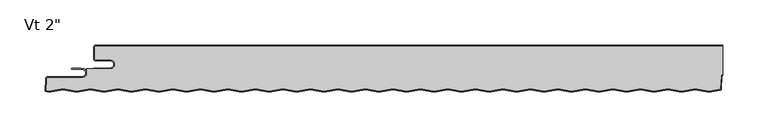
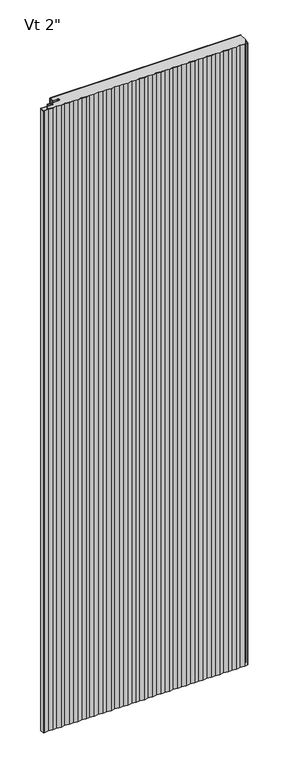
"""IFC4 building model written with IfcOpenShell, lengths in millimetres: plate geometry."""

from ifc_helpers import new_model, si_unit, point, frame_2d, origin, origin_with_axes, place, context, project, spatial, polyline, circle_curve, trimmed, segment, composite_curve, outline, extrude, source, transform, mapped, element, save


def plate_70c22ccc(model_context):
    return source(origin(), model_context, "Body", "SweptSolid", [
        extrude(outline(composite_curve([segment(polyline([(-345.8249998, -1.0), (348.9999998, -1.0), (348.9999998, -32.391556)]), True, "CONTINUOUS"), segment(trimmed(circle_curve(frame_2d((349.5261348, -34.925)), 2.5875), [point((348.9999998, -32.391556))], [point((346.9421809, -34.7895807))], True, "CARTESIAN"), True, "CONTINUOUS"), segment(polyline([(346.9421809, -34.7895807), (346.2043986, -48.8673048), (333.4662502, -50.9054086), (318.4288176, -48.4994194), (303.1888176, -50.9378194), (287.9488176, -48.4994194), (272.7088176, -50.9378194), (257.4688176, -48.4994194), (242.2288176, -50.9378194), (226.9888176, -48.4994194), (211.7488176, -50.9378194), (196.5088176, -48.4994194), (181.2688176, -50.9378194), (166.0288176, -48.4994194), (150.7888176, -50.9378194), (135.5488176, -48.4994194), (120.3088176, -50.9378194), (105.0688176, -48.4994194), (89.8288176, -50.9378194), (74.5888176, -48.4994194), (59.3488176, -50.9378194), (44.1088176, -48.4994194), (28.8688176, -50.9378194), (13.6288176, -48.4994194), (-1.6111824, -50.9378194), (-16.8511824, -48.4994194), (-32.0911824, -50.9378194), (-47.3311824, -48.4994194), (-62.5711824, -50.9378194), (-77.8111824, -48.4994194), (-93.0511824, -50.9378194), (-108.2911824, -48.4994194), (-123.5311824, -50.9378194), (-138.7711824, -48.4994194), (-154.0111824, -50.9378194), (-169.2511824, -48.4994194), (-184.4911824, -50.9378194), (-199.7311824, -48.4994194), (-214.9711824, -50.9378194), (-230.2111824, -48.4994194), (-245.4511824, -50.9378194), (-260.6911824, -48.4994194), (-275.9311824, -50.9378194), (-291.1711824, -48.4994194), (-306.4111824, -50.9378194), (-321.6511824, -48.4994194), (-336.8911824, -50.9378194), (-352.1311824, -48.4994194), (-367.3711824, -50.9378194), (-382.6111824, -48.4994194), (-397.8511824, -50.9378194), (-401.1593604, -50.4085109), (-400.4689115, -37.233961)]), True, "CONTINUOUS"), segment(trimmed(circle_curve(frame_2d((-399.0895545, -37.30625)), 1.38125), [point((-400.4689115, -37.233961))], [point((-399.0895545, -35.925))], False, "CARTESIAN"), True, "CONTINUOUS"), segment(polyline([(-399.0895545, -35.925), (-360.9062498, -35.925)]), True, "CONTINUOUS"), segment(trimmed(circle_curve(frame_2d((-360.9062498, -30.95625)), 4.96875), [point((-360.9062498, -35.925))], [point((-355.9374998, -30.95625))], True, "CARTESIAN"), True, "CONTINUOUS"), segment(polyline([(-355.9374998, -30.95625), (-355.9374998, -26.4), (-329.9499998, -26.4)]), True, "CONTINUOUS"), segment(trimmed(circle_curve(frame_2d((-329.9499998, -21.43125)), 4.96875), [point((-329.9499998, -26.4))], [point((-329.9499998, -16.4625))], True, "CARTESIAN"), True, "CONTINUOUS"), segment(polyline([(-329.9499998, -16.4625), (-345.8249998, -16.4625)]), True, "CONTINUOUS"), segment(trimmed(circle_curve(frame_2d((-345.8249998, -15.08125)), 1.38125), [point((-345.8249998, -16.4625))], [point((-347.2062498, -15.08125))], False, "CARTESIAN"), True, "CONTINUOUS"), segment(polyline([(-347.2062498, -15.08125), (-347.2062498, -2.38125)]), True, "CONTINUOUS"), segment(trimmed(circle_curve(frame_2d((-345.8249998, -2.38125)), 1.38125), [point((-347.2062498, -2.38125))], [point((-345.8249998, -1.0))], False, "CARTESIAN"), True, "CONTINUOUS")], self_intersect=False)), origin_with_axes(), (0.0, 0.0, 1.0), 2400.0),
        extrude(outline(composite_curve([segment(polyline([(-348.2062498, -25.4), (-329.9499998, -25.4)]), True, "CONTINUOUS"), segment(trimmed(circle_curve(frame_2d((-329.9499998, -21.43125)), 3.96875), [point((-329.9499998, -25.4))], [point((-329.9499998, -17.4625))], True, "CARTESIAN"), True, "CONTINUOUS"), segment(polyline([(-329.9499998, -17.4625), (-345.8249998, -17.4625)]), True, "CONTINUOUS"), segment(trimmed(circle_curve(frame_2d((-345.8249998, -15.08125)), 2.38125), [point((-345.8249998, -17.4625))], [point((-348.2062498, -15.08125))], False, "CARTESIAN"), True, "CONTINUOUS"), segment(polyline([(-348.2062498, -15.08125), (-348.2062498, -2.38125)]), True, "CONTINUOUS"), segment(trimmed(circle_curve(frame_2d((-345.8249998, -2.38125)), 2.38125), [point((-348.2062498, -2.38125))], [point((-345.8249998, 0.0))], False, "CARTESIAN"), True, "CONTINUOUS"), segment(polyline([(-345.8249998, 0.0), (348.9999998, 0.0), (348.9999998, -1.0), (-345.8249998, -1.0)]), True, "CONTINUOUS"), segment(trimmed(circle_curve(frame_2d((-345.8249998, -2.38125)), 1.38125), [point((-345.8249998, -1.0))], [point((-347.2062498, -2.38125))], True, "CARTESIAN"), True, "CONTINUOUS"), segment(polyline([(-347.2062498, -2.38125), (-347.2062498, -15.08125)]), True, "CONTINUOUS"), segment(trimmed(circle_curve(frame_2d((-345.8249998, -15.08125)), 1.38125), [point((-347.2062498, -15.08125))], [point((-345.8249998, -16.4625))], True, "CARTESIAN"), True, "CONTINUOUS"), segment(polyline([(-345.8249998, -16.4625), (-329.9499998, -16.4625)]), True, "CONTINUOUS"), segment(trimmed(circle_curve(frame_2d((-329.9499998, -21.43125)), 4.96875), [point((-329.9499998, -16.4625))], [point((-329.9499998, -26.4))], False, "CARTESIAN"), True, "CONTINUOUS"), segment(polyline([(-329.9499998, -26.4), (-348.2062498, -26.4), (-348.2062498, -25.4)]), True, "CONTINUOUS")], self_intersect=False)), origin_with_axes(), (0.0, 0.0, 1.0), 2400.0),
        extrude(outline(composite_curve([segment(polyline([(-372.2314548, -25.4), (-362.5080173, -25.4), (-362.5080173, -26.19375), (-360.9205173, -25.9875)]), True, "CONTINUOUS"), segment(trimmed(circle_curve(frame_2d((-360.9205173, -30.95625)), 4.96875), [point((-360.9205173, -25.9875))], [point((-360.9205173, -35.925))], False, "CARTESIAN"), True, "CONTINUOUS"), segment(polyline([(-360.9205173, -35.925), (-399.1038219, -35.925)]), True, "CONTINUOUS"), segment(trimmed(circle_curve(frame_2d((-399.1038219, -37.30625)), 1.38125), [point((-399.1038219, -35.925))], [point((-400.483179, -37.233961))], True, "CARTESIAN"), True, "CONTINUOUS"), segment(polyline([(-400.483179, -37.233961), (-401.1788914, -50.5089447), (-397.8709185, -51.0382204), (-382.6309185, -48.5998204), (-367.3909185, -51.0382204), (-352.1509185, -48.5998204), (-336.9109185, -51.0382204), (-321.6709185, -48.5998204), (-306.4309185, -51.0382204), (-291.1909185, -48.5998204), (-275.9509185, -51.0382204), (-260.7109185, -48.5998204), (-245.4709185, -51.0382204), (-230.2309185, -48.5998204), (-214.9909185, -51.0382204), (-199.7509185, -48.5998204), (-184.5109185, -51.0382204), (-169.2709185, -48.5998204), (-154.0309185, -51.0382204), (-138.7909185, -48.5998204), (-123.5509185, -51.0382204), (-108.3109185, -48.5998204), (-93.0709185, -51.0382204), (-77.8309185, -48.5998204), (-62.5909185, -51.0382204), (-47.3509185, -48.5998204), (-32.1109185, -51.0382204), (-16.8709185, -48.5998204), (-1.6309185, -51.0382204), (13.6090815, -48.5998204), (28.8490815, -51.0382204), (44.0890815, -48.5998204), (59.3290815, -51.0382204), (74.5690815, -48.5998204), (89.8090815, -51.0382204), (105.0490815, -48.5998204), (120.2890815, -51.0382204), (135.5290815, -48.5998204), (150.7690815, -51.0382204), (166.0090815, -48.5998204), (181.2490815, -51.0382204), (196.4890815, -48.5998204), (211.7290815, -51.0382204), (226.9690815, -48.5998204), (242.2090815, -51.0382204), (257.4490815, -48.5998204), (272.6890815, -51.0382204), (287.9290815, -48.5998204), (303.1690815, -51.0382204), (318.4090815, -48.5998204), (333.4465141, -51.0058096), (345.7302425, -49.040413)]), True, "CONTINUOUS"), segment(trimmed(circle_curve(frame_2d((345.637423, -48.4602917)), 0.5875), [point((345.7302425, -49.040413))], [point((346.2241179, -48.491039))], True, "CARTESIAN"), True, "CONTINUOUS"), segment(polyline([(346.2241179, -48.491039), (346.9421809, -34.7895807)]), True, "CONTINUOUS"), segment(trimmed(circle_curve(frame_2d((349.5261348, -34.925)), 2.5875), [point((346.9421809, -34.7895807))], [point((348.9999998, -32.391556))], False, "CARTESIAN"), True, "CONTINUOUS"), segment(polyline([(348.9999998, -32.391556), (348.9999998, -33.4272222)]), True, "CONTINUOUS"), segment(trimmed(circle_curve(frame_2d((349.5261348, -34.925)), 1.5875), [point((348.9999998, -33.4272222))], [point((347.9408104, -34.8419167))], True, "CARTESIAN"), True, "CONTINUOUS"), segment(polyline([(347.9408104, -34.8419167), (347.2227474, -48.543375)]), True, "CONTINUOUS"), segment(trimmed(circle_curve(frame_2d((345.637423, -48.4602917)), 1.5875), [point((347.2227474, -48.543375))], [point((345.888233, -50.0278537))], False, "CARTESIAN"), True, "CONTINUOUS"), segment(polyline([(345.888233, -50.0278537), (333.4465141, -52.0185287), (318.4090815, -49.6125395), (303.1690815, -52.0509395), (287.9290815, -49.6125395), (272.6890815, -52.0509395), (257.4490815, -49.6125395), (242.2090815, -52.0509395), (226.9690815, -49.6125395), (211.7290815, -52.0509395), (196.4890815, -49.6125395), (181.2490815, -52.0509395), (166.0090815, -49.6125395), (150.7690815, -52.0509395), (135.5290815, -49.6125395), (120.2890815, -52.0509395), (105.0490815, -49.6125395), (89.8090815, -52.0509395), (74.5690815, -49.6125395), (59.3290815, -52.0509395), (44.0890815, -49.6125395), (28.8490815, -52.0509395), (13.6090815, -49.6125395), (-1.6309185, -52.0509395), (-16.8709185, -49.6125395), (-32.1109185, -52.0509395), (-47.3509185, -49.6125395), (-62.5909185, -52.0509395), (-77.8309185, -49.6125395), (-93.0709185, -52.0509395), (-108.3109185, -49.6125395), (-123.5509185, -52.0509395), (-138.7909185, -49.6125395), (-154.0309185, -52.0509395), (-169.2709185, -49.6125395), (-184.5109185, -52.0509395), (-199.7509185, -49.6125395), (-214.9909185, -52.0509395), (-230.2309185, -49.6125395), (-245.4709185, -52.0509395), (-260.7109185, -49.6125395), (-275.9509185, -52.0509395), (-291.1909185, -49.6125395), (-306.4309185, -52.0509395), (-321.6709185, -49.6125395), (-336.9109185, -52.0509395), (-352.1509185, -49.6125395), (-367.3909185, -52.0509395), (-382.6309185, -49.6125395), (-397.8709185, -52.0509395), (-402.2245698, -51.3543553), (-401.4818085, -37.181625)]), True, "CONTINUOUS"), segment(trimmed(circle_curve(frame_2d((-399.1038219, -37.30625)), 2.38125), [point((-401.4818085, -37.181625))], [point((-399.1038219, -34.925))], False, "CARTESIAN"), True, "CONTINUOUS"), segment(polyline([(-399.1038219, -34.925), (-360.9205173, -34.925)]), True, "CONTINUOUS"), segment(trimmed(circle_curve(frame_2d((-360.9205173, -30.95625)), 3.96875), [point((-360.9205173, -34.925))], [point((-360.9205173, -26.9875))], True, "CARTESIAN"), True, "CONTINUOUS"), segment(polyline([(-360.9205173, -26.9875), (-372.2314548, -26.9875)]), True, "CONTINUOUS"), segment(trimmed(circle_curve(frame_2d((-372.2314548, -26.19375)), 0.79375), [point((-372.2314548, -26.9875))], [point((-372.2314548, -25.4))], False, "CARTESIAN"), True, "CONTINUOUS")], self_intersect=False)), origin_with_axes(), (0.0, 0.0, 1.0), 2400.0),
    ])


if __name__ == "__main__":
    model = new_model("IFC4")
    model_context = context("Model", 3, world=origin())
    ifc_project = project(units=[si_unit("LENGTHUNIT", "METRE", prefix="MILLI")], contexts=[model_context])
    site = spatial("IfcSite", under=ifc_project)
    building = spatial("IfcBuilding", under=site)
    placement = place(None, origin())
    plate_shape = plate_70c22ccc(model_context)
    element("IfcPlate", 1, ObjectType="KIP-30-DWHR-R19-CP-Vt-S : Vt 2\"", at=placement, inside=building, context=model_context, shape_type="MappedRepresentation", body=[
        mapped(plate_shape, transform((0.0, 0.0, 0.0), x_axis=(1.0, 0.0, 0.0), y_axis=(0.0, 1.0, 0.0), z_axis=(0.0, 0.0, 1.0))),
    ])
    save(model, "model.ifc")
